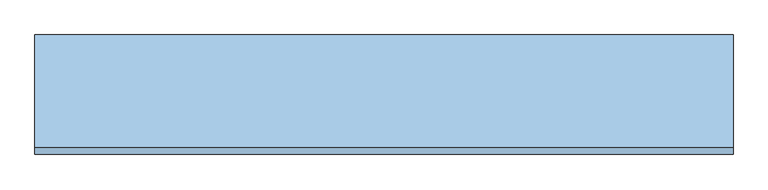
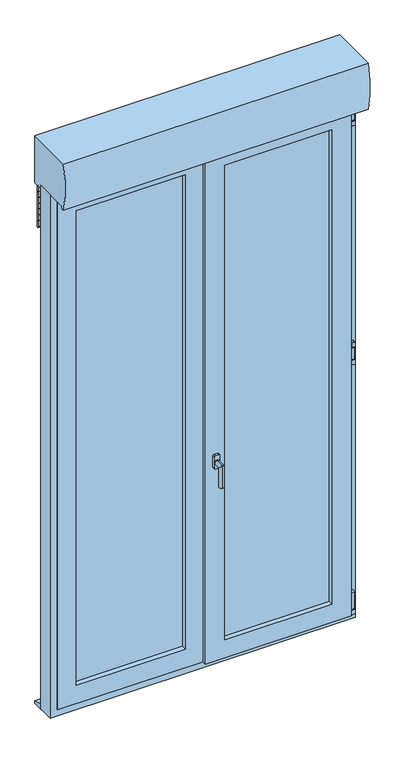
"""IFC4 building model written with IfcOpenShell, lengths in millimetres: window geometry, 23. PF1 + Fixe à G ENR PVC-ALU : PF3 260X236 (LXH) cm + PB."""

from ifc_helpers import new_model, si_unit, point, frame, frame_2d, origin, place, context, project, spatial, polyline, circle_curve, ellipse_curve, trimmed, segment, composite_curve, outline, extrude, faceted_brep, source, transform, mapped, element, save
from ifc_brep_helpers import plane_surface, cylinder_surface, advanced_brep


def window_a6706a3a(model_context):
    return source(origin(), model_context, "Body", "SolidModel", [
        extrude(outline(composite_curve([segment(polyline([(1233.7215382, 626.56), (1233.7215382, 641.56), (1251.7279213, 641.56)]), True, "CONTINUOUS"), segment(trimmed(circle_curve(frame_2d((1251.7279213, 639.5663831)), 1.9936169), [point((1251.7279213, 641.56))], [point((1253.7215382, 639.5663831))], False, "CARTESIAN"), True, "CONTINUOUS"), segment(polyline([(1253.7215382, 639.5663831), (1253.7215382, 628.5276754)]), True, "CONTINUOUS"), segment(trimmed(circle_curve(frame_2d((1251.7538628, 628.5276754)), 1.9676754), [point((1253.7215382, 628.5276754))], [point((1251.7538628, 626.56))], False, "CARTESIAN"), True, "CONTINUOUS"), segment(polyline([(1251.7538628, 626.56), (1233.7215382, 626.56)]), True, "CONTINUOUS")], self_intersect=False)), frame((0.0, -115.0338923, 0.0), z_axis=(0.0, 1.0, 0.0), x_axis=(0.0, 0.0, 1.0)), (0.0, 0.0, 1.0), 15.0),
        extrude(outline(composite_curve([segment(trimmed(circle_curve(frame_2d((634.2805562, -107.5434807)), 5.0), [point((629.2805562, -107.5434807))], [point((639.2805562, -107.5434807))], False, "CARTESIAN"), True, "CONTINUOUS"), segment(trimmed(circle_curve(frame_2d((634.2805562, -107.5434807)), 5.0), [point((639.2805562, -107.5434807))], [point((629.2805562, -107.5434807))], False, "CARTESIAN"), True, "CONTINUOUS")], self_intersect=False)), frame((0.0, 0.0, 1173.7215382), z_axis=(0.0, 0.0, 1.0), x_axis=(1.0, 0.0, 0.0)), (0.0, 0.0, 1.0), 60.0),
        extrude(outline(composite_curve([segment(polyline([(621.56, -100.0434807), (639.6018237, -100.0434807)]), True, "CONTINUOUS"), segment(trimmed(circle_curve(frame_2d((639.6018237, -102.001657)), 1.9581763), [point((639.6018237, -100.0434807))], [point((641.56, -102.001657))], False, "CARTESIAN"), True, "CONTINUOUS"), segment(polyline([(641.56, -102.001657), (641.56, -113.0253033)]), True, "CONTINUOUS"), segment(trimmed(circle_curve(frame_2d((639.5418225, -113.0253033)), 2.0181775), [point((641.56, -113.0253033))], [point((639.5418225, -115.0434807))], False, "CARTESIAN"), True, "CONTINUOUS"), segment(polyline([(639.5418225, -115.0434807), (621.56, -115.0434807), (621.56, -100.0434807)]), True, "CONTINUOUS")], self_intersect=False)), frame((0.0, 0.0, 1179.448), z_axis=(0.0, 0.0, 1.0), x_axis=(1.0, 0.0, 0.0)), (0.0, 0.0, 1.0), 50.0),
        extrude(outline(composite_curve([segment(polyline([(1174.448, 641.7805562), (1174.448, 626.7805562), (1156.4572498, 626.7805562)]), True, "CONTINUOUS"), segment(trimmed(circle_curve(frame_2d((1156.4572498, 628.7898059)), 2.0092498), [point((1156.4572498, 626.7805562))], [point((1154.448, 628.7898059))], False, "CARTESIAN"), True, "CONTINUOUS"), segment(polyline([(1154.448, 628.7898059), (1154.448, 640.1303507)]), True, "CONTINUOUS"), segment(trimmed(circle_curve(frame_2d((1156.4216694, 639.8068867)), 2.0), [point((1154.448, 640.1303507))], [point((1156.0982054, 641.7805562))], False, "CARTESIAN"), True, "CONTINUOUS"), segment(polyline([(1156.0982054, 641.7805562), (1174.448, 641.7805562)]), True, "CONTINUOUS")], self_intersect=False)), frame((0.0, -115.0338923, 0.0), z_axis=(0.0, 1.0, 0.0), x_axis=(0.0, 0.0, 1.0)), (0.0, 0.0, 1.0), 15.0),
        extrude(outline(composite_curve([segment(polyline([(2310.8255382, 626.56), (2310.8255382, 641.56), (2328.8319213, 641.56)]), True, "CONTINUOUS"), segment(trimmed(circle_curve(frame_2d((2328.8319213, 639.5663831)), 1.9936169), [point((2328.8319213, 641.56))], [point((2330.8255382, 639.5663831))], False, "CARTESIAN"), True, "CONTINUOUS"), segment(polyline([(2330.8255382, 639.5663831), (2330.8255382, 628.5276754)]), True, "CONTINUOUS"), segment(trimmed(circle_curve(frame_2d((2328.8578628, 628.5276754)), 1.9676754), [point((2330.8255382, 628.5276754))], [point((2328.8578628, 626.56))], False, "CARTESIAN"), True, "CONTINUOUS"), segment(polyline([(2328.8578628, 626.56), (2310.8255382, 626.56)]), True, "CONTINUOUS")], self_intersect=False)), frame((0.0, -115.0338923, 0.0), z_axis=(0.0, 1.0, 0.0), x_axis=(0.0, 0.0, 1.0)), (0.0, 0.0, 1.0), 15.0),
        extrude(outline(composite_curve([segment(trimmed(circle_curve(frame_2d((634.2805562, -107.5434807)), 5.0), [point((629.2805562, -107.5434807))], [point((639.2805562, -107.5434807))], False, "CARTESIAN"), True, "CONTINUOUS"), segment(trimmed(circle_curve(frame_2d((634.2805562, -107.5434807)), 5.0), [point((639.2805562, -107.5434807))], [point((629.2805562, -107.5434807))], False, "CARTESIAN"), True, "CONTINUOUS")], self_intersect=False)), frame((0.0, 0.0, 2250.8255382), z_axis=(0.0, 0.0, 1.0), x_axis=(1.0, 0.0, 0.0)), (0.0, 0.0, 1.0), 60.0),
        extrude(outline(composite_curve([segment(polyline([(621.56, -100.0434807), (639.6018237, -100.0434807)]), True, "CONTINUOUS"), segment(trimmed(circle_curve(frame_2d((639.6018237, -102.001657)), 1.9581763), [point((639.6018237, -100.0434807))], [point((641.56, -102.001657))], False, "CARTESIAN"), True, "CONTINUOUS"), segment(polyline([(641.56, -102.001657), (641.56, -113.0253033)]), True, "CONTINUOUS"), segment(trimmed(circle_curve(frame_2d((639.5418225, -113.0253033)), 2.0181775), [point((641.56, -113.0253033))], [point((639.5418225, -115.0434807))], False, "CARTESIAN"), True, "CONTINUOUS"), segment(polyline([(639.5418225, -115.0434807), (621.56, -115.0434807), (621.56, -100.0434807)]), True, "CONTINUOUS")], self_intersect=False)), frame((0.0, 0.0, 2256.552), z_axis=(0.0, 0.0, 1.0), x_axis=(1.0, 0.0, 0.0)), (0.0, 0.0, 1.0), 50.0),
        extrude(outline(composite_curve([segment(polyline([(2251.552, 641.7805562), (2251.552, 626.7805562), (2233.5612498, 626.7805562)]), True, "CONTINUOUS"), segment(trimmed(circle_curve(frame_2d((2233.5612498, 628.7898059)), 2.0092498), [point((2233.5612498, 626.7805562))], [point((2231.552, 628.7898059))], False, "CARTESIAN"), True, "CONTINUOUS"), segment(polyline([(2231.552, 628.7898059), (2231.552, 640.1303507)]), True, "CONTINUOUS"), segment(trimmed(circle_curve(frame_2d((2233.5256694, 639.8068867)), 2.0), [point((2231.552, 640.1303507))], [point((2233.2022054, 641.7805562))], False, "CARTESIAN"), True, "CONTINUOUS"), segment(polyline([(2233.2022054, 641.7805562), (2251.552, 641.7805562)]), True, "CONTINUOUS")], self_intersect=False)), frame((0.0, -115.0338923, 0.0), z_axis=(0.0, 1.0, 0.0), x_axis=(0.0, 0.0, 1.0)), (0.0, 0.0, 1.0), 15.0),
        extrude(outline(composite_curve([segment(trimmed(circle_curve(frame_2d((634.2805562, -107.5434807)), 5.0), [point((629.2805562, -107.5434807))], [point((639.2805562, -107.5434807))], False, "CARTESIAN"), True, "CONTINUOUS"), segment(trimmed(circle_curve(frame_2d((634.2805562, -107.5434807)), 5.0), [point((639.2805562, -107.5434807))], [point((629.2805562, -107.5434807))], False, "CARTESIAN"), True, "CONTINUOUS")], self_intersect=False)), frame((0.0, 0.0, 48.448), z_axis=(0.0, 0.0, 1.0), x_axis=(1.0, 0.0, 0.0)), (0.0, 0.0, 1.0), 5.0),
        extrude(outline(composite_curve([segment(polyline([(48.448, 641.7805562), (48.448, 626.7805562), (30.4572498, 626.7805562)]), True, "CONTINUOUS"), segment(trimmed(circle_curve(frame_2d((30.4572498, 628.7898059)), 2.0092498), [point((30.4572498, 626.7805562))], [point((28.448, 628.7898059))], False, "CARTESIAN"), True, "CONTINUOUS"), segment(polyline([(28.448, 628.7898059), (28.448, 640.1303507)]), True, "CONTINUOUS"), segment(trimmed(circle_curve(frame_2d((30.4216694, 639.8068867)), 2.0), [point((28.448, 640.1303507))], [point((30.0982054, 641.7805562))], False, "CARTESIAN"), True, "CONTINUOUS"), segment(polyline([(30.0982054, 641.7805562), (48.448, 641.7805562)]), True, "CONTINUOUS")], self_intersect=False)), frame((0.0, -115.0338923, 0.0), z_axis=(0.0, 1.0, 0.0), x_axis=(0.0, 0.0, 1.0)), (0.0, 0.0, 1.0), 15.0),
        extrude(outline(composite_curve([segment(polyline([(621.56, -100.0434807), (639.6018237, -100.0434807)]), True, "CONTINUOUS"), segment(trimmed(circle_curve(frame_2d((639.6018237, -102.001657)), 1.9581763), [point((639.6018237, -100.0434807))], [point((641.56, -102.001657))], False, "CARTESIAN"), True, "CONTINUOUS"), segment(polyline([(641.56, -102.001657), (641.56, -113.0253033)]), True, "CONTINUOUS"), segment(trimmed(circle_curve(frame_2d((639.5418225, -113.0253033)), 2.0181775), [point((641.56, -113.0253033))], [point((639.5418225, -115.0434807))], False, "CARTESIAN"), True, "CONTINUOUS"), segment(polyline([(639.5418225, -115.0434807), (621.56, -115.0434807), (621.56, -100.0434807)]), True, "CONTINUOUS")], self_intersect=False)), frame((0.0, 0.0, 53.448), z_axis=(0.0, 0.0, 1.0), x_axis=(1.0, 0.0, 0.0)), (0.0, 0.0, 1.0), 75.0),
        advanced_brep(
        [(51.5, -129.3239543, 961.448), (36.5, -129.3239543, 961.448), (31.5, -129.3239543, 956.448), (31.5, -129.3239543, 906.448), (36.5, -129.3239543, 901.448), (51.5, -129.3239543, 901.448), (56.5, -129.3239543, 906.448), (56.5, -129.3239543, 956.448), (44.2771873, -129.3239543, 939.2518349), (44.2771873, -129.3239543, 919.2518349), (51.5, -117.4674689, 961.448), (56.5, -117.4674689, 956.448), (56.5, -117.4674689, 906.448), (51.5, -117.4674689, 901.448), (36.5, -117.4674689, 901.448), (31.5, -117.4674689, 906.448), (31.5, -117.4674689, 956.448), (36.5, -117.4674689, 961.448), (44.2771873, -133.0531938, 919.2518349), (44.2771873, -133.0531938, 939.2518349), (44.2771873, -173.0531938, 939.2518349), (44.2771873, -153.0531938, 919.2518349), (44.2771873, -173.0531938, 839.2518349), (44.2771873, -153.0531938, 839.2518349)],
        [
            (0, 1),
            (1, 2, circle_curve(frame((36.5, -129.3239543, 956.448), z_axis=(0.0, -1.0, 0.0), x_axis=(-1.0, 0.0, 0.0)), 5.0)),
            (2, 3),
            (3, 4, circle_curve(frame((36.5, -129.3239543, 906.448), z_axis=(0.0, -1.0, 0.0), x_axis=(-1.0, 0.0, 0.0)), 5.0)),
            (4, 5),
            (5, 6, circle_curve(frame((51.5, -129.3239543, 906.448), z_axis=(0.0, -1.0, 0.0), x_axis=(-1.0, 0.0, 0.0)), 5.0)),
            (6, 7),
            (7, 0, circle_curve(frame((51.5, -129.3239543, 956.448), z_axis=(0.0, -1.0, 0.0), x_axis=(-1.0, 0.0, 0.0)), 5.0)),
            (8, 9, circle_curve(frame((44.2771873, -129.3239543, 929.2518349), z_axis=(0.0, 1.0, 0.0), x_axis=(0.0, 0.0, -1.0)), 10.0)),
            (9, 8, circle_curve(frame((44.2771873, -129.3239543, 929.2518349), z_axis=(0.0, 1.0, 0.0), x_axis=(0.0, 0.0, -1.0)), 10.0)),
            (10, 11, circle_curve(frame((51.5, -117.4674689, 956.448), z_axis=(0.0, 1.0, 0.0), x_axis=(-1.0, 0.0, 0.0)), 5.0)),
            (11, 12),
            (12, 13, circle_curve(frame((51.5, -117.4674689, 906.448), z_axis=(0.0, 1.0, 0.0), x_axis=(-1.0, 0.0, 0.0)), 5.0)),
            (13, 14),
            (14, 15, circle_curve(frame((36.5, -117.4674689, 906.448), z_axis=(0.0, 1.0, 0.0), x_axis=(-1.0, 0.0, 0.0)), 5.0)),
            (15, 16),
            (16, 17, circle_curve(frame((36.5, -117.4674689, 956.448), z_axis=(0.0, 1.0, 0.0), x_axis=(-1.0, 0.0, 0.0)), 5.0)),
            (17, 10),
            (7, 11),
            (10, 0),
            (6, 12),
            (5, 13),
            (4, 14),
            (3, 15),
            (2, 16),
            (1, 17),
            (18, 19, circle_curve(frame((44.2771873, -133.0531938, 929.2518349), z_axis=(0.0, -1.0, 0.0), x_axis=(0.0, 0.0, -1.0)), 10.0)),
            (19, 20),
            (20, 21, ellipse_curve(frame((44.2771873, -163.0531938, 929.2518349), z_axis=(0.0, 0.7071067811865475, 0.7071067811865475), x_axis=(0.0, 0.7071067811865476, -0.7071067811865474)), 14.1421356, 10.0)),
            (21, 18),
            (19, 18, circle_curve(frame((44.2771873, -133.0531938, 929.2518349), z_axis=(0.0, -1.0, 0.0), x_axis=(0.0, 0.0, -1.0)), 10.0)),
            (21, 20, ellipse_curve(frame((44.2771873, -163.0531938, 929.2518349), z_axis=(0.0, 0.7071067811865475, 0.7071067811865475), x_axis=(0.0, 0.7071067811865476, -0.7071067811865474)), 14.1421356, 10.0)),
            (22, 23, circle_curve(frame((44.2771873, -163.0531938, 839.2518349), z_axis=(0.0, 0.0, -1.0), x_axis=(0.0, 1.0, 0.0)), 10.0)),
            (23, 22, circle_curve(frame((44.2771873, -163.0531938, 839.2518349), z_axis=(0.0, 0.0, -1.0), x_axis=(0.0, 1.0, 0.0)), 10.0)),
            (20, 22),
            (23, 21),
            (18, 9),
            (8, 19),
        ],
        [
            plane_surface(frame((46.5, -129.3239543, 956.448), z_axis=(0.0, -1.0, 0.0), x_axis=(0.0, 0.0, -1.0))),
            plane_surface(frame((46.5, -117.4674689, 956.448), z_axis=(0.0, 1.0, 0.0), x_axis=(0.0, 0.0, 1.0))),
            cylinder_surface(frame((51.5, -129.3239543, 956.448), z_axis=(0.0, 1.0, 0.0), x_axis=(-1.0, 0.0, 0.0)), 5.0),
            plane_surface(frame((56.5, -117.4674689, 956.448), z_axis=(1.0, 0.0, 0.0), x_axis=(0.0, -1.0, 0.0))),
            cylinder_surface(frame((51.5, -129.3239543, 906.448), z_axis=(0.0, 1.0, 0.0), x_axis=(-1.0, 0.0, 0.0)), 5.0),
            plane_surface(frame((51.5, -117.4674689, 901.448), z_axis=(0.0, 0.0, -1.0), x_axis=(0.0, -1.0, 0.0))),
            cylinder_surface(frame((36.5, -129.3239543, 906.448), z_axis=(0.0, 1.0, 0.0), x_axis=(-1.0, 0.0, 0.0)), 5.0),
            plane_surface(frame((31.5, -117.4674689, 906.448), z_axis=(-1.0, 0.0, 0.0), x_axis=(0.0, -1.0, 0.0))),
            cylinder_surface(frame((36.5, -129.3239543, 956.448), z_axis=(0.0, 1.0, 0.0), x_axis=(-1.0, 0.0, 0.0)), 5.0),
            plane_surface(frame((36.5, -117.4674689, 961.448), z_axis=(0.0, 0.0, 1.0), x_axis=(0.0, -1.0, 0.0))),
            cylinder_surface(frame((44.2771873, -133.0531938, 929.2518349), z_axis=(0.0, 1.0, 0.0), x_axis=(0.0, 0.0, -1.0)), 10.0),
            plane_surface(frame((56.5, -163.0531938, 839.2518349), z_axis=(0.0, 0.0, -1.0), x_axis=(1.0, 0.0, 0.0))),
            cylinder_surface(frame((44.2771873, -163.0531938, 929.2518349), z_axis=(0.0, 0.0, 1.0), x_axis=(0.0, 1.0, 0.0)), 10.0),
            cylinder_surface(frame((44.2771873, -129.3239543, 929.2518349), z_axis=(0.0, 1.0, 0.0), x_axis=(0.0, 0.0, -1.0)), 10.0),
        ],
        [
            (0, [[1, 2, 3, 4, 5, 6, 7, 8], [9, 10]]),
            (1, [[11, 12, 13, 14, 15, 16, 17, 18]]),
            (2, [[-8, 19, -11, 20]]),
            (3, [[-7, 21, -12, -19]]),
            (4, [[-6, 22, -13, -21]]),
            (5, [[-5, 23, -14, -22]]),
            (6, [[-4, 24, -15, -23]]),
            (7, [[-3, 25, -16, -24]]),
            (8, [[-2, 26, -17, -25]]),
            (9, [[-1, -20, -18, -26]]),
            (10, [[27, 28, 29, 30]]),
            (10, [[-28, 31, -30, 32]]),
            (11, [[33, 34]]),
            (12, [[-29, 35, -34, 36]]),
            (12, [[-32, -36, -33, -35]]),
            (13, [[-27, 37, -9, 38]]),
            (13, [[-31, -38, -10, -37]]),
        ],
    ),
        faceted_brep([(-650.0, -100.02, 2360.0), (-650.0, -28.9, 2360.0), (-650.0, -28.9, 0.0), (-650.0, -100.02, 0.0), (650.0, -28.9, 2360.0), (650.0, -28.9, 0.0), (-592.0983858, -28.9, 57.9016142), (592.0983858, -28.9, 57.9016142), (592.0983858, -28.9, 2302.0983858), (-592.0983858, -28.9, 2302.0983858), (650.0, -100.02, 0.0), (650.0, -100.02, 2360.0), (-613.424, -100.02, 2323.424), (613.424, -100.02, 2323.424), (613.424, -100.02, 36.576), (-613.424, -100.02, 36.576), (-613.424, -44.648, 2323.424), (-613.424, -44.648, 36.576), (613.424, -44.648, 36.576), (613.424, -44.648, 2323.424), (-592.0983858, -44.648, 2302.0983858), (592.0983858, -44.648, 2302.0983858), (592.0983858, -44.648, 57.9016142), (-592.0983858, -44.648, 57.9016142)], [[[0, 1, 2, 3]], [[1, 4, 5, 2], [6, 7, 8, 9]], [[3, 2, 5, 10]], [[3, 10, 11, 0], [12, 13, 14, 15]], [[16, 12, 15, 17]], [[17, 15, 14, 18]], [[17, 18, 19, 16], [20, 21, 22, 23]], [[9, 20, 23, 6]], [[6, 23, 22, 7]], [[10, 5, 4, 11]], [[18, 14, 13, 19]], [[7, 22, 21, 8]], [[11, 4, 1, 0]], [[19, 13, 12, 16]], [[8, 21, 20, 9]]]),
        extrude(outline(polyline([(35.0045299, -28.9), (35.0045299, -44.648), (20.324, -44.648), (20.324, -100.0), (8.132, -100.0), (8.132, -44.648), (-21.3216142, -44.648), (-21.3216142, -28.9), (35.0045299, -28.9)])), frame((0.0, 0.0, 57.9016142), z_axis=(0.0, 0.0, 1.0), x_axis=(1.0, 0.0, 0.0)), (0.0, 0.0, 1.0), 2244.1),
        faceted_brep([(-21.2576142, -28.9, 2302.0983858), (-21.2576142, -44.648, 2302.0983858), (-21.2576142, -44.648, 57.9016142), (-21.2576142, -28.9, 57.9016142), (8.196, -44.648, 28.448), (-621.56, -44.648, 28.448), (-621.56, -44.648, 2331.552), (8.196, -44.648, 2331.552), (-592.1063858, -44.648, 2302.0983858), (-592.1063858, -44.648, 57.9016142), (-592.1063858, -28.9, 57.9016142), (-592.1063858, -28.9, 2302.0983858), (-73.8319508, -28.9, 2249.5240492), (-539.5320492, -28.9, 2249.5240492), (-539.5320492, -28.9, 110.4759508), (-73.8319508, -28.9, 110.4759508), (-539.5320492, -50.2048765, 110.4759508), (-539.5320492, -50.2048765, 2249.5240492), (-73.8319508, -50.2048765, 110.4759508), (-73.8319508, -50.2048765, 2249.5240492), (8.196, -100.963906, 28.448), (-621.56, -100.963906, 28.448), (-621.56, -100.963906, 2331.552), (8.196, -100.963906, 2331.552), (-73.8319508, -100.963906, 110.4759508), (-539.5320492, -100.963906, 110.4759508), (-539.5320492, -100.963906, 2249.5240492), (-73.8319508, -100.963906, 2249.5240492), (-73.8319508, -78.213906, 110.4759508), (-539.5320492, -78.213906, 110.4759508), (-539.5320492, -78.213906, 2249.5240492), (-73.8319508, -78.213906, 2249.5240492), (-59.9384883, -50.2048765, 2263.4175117), (-553.4255117, -50.2048765, 2263.4175117), (-553.4255117, -50.2048765, 96.5824883), (-59.9384883, -50.2048765, 96.5824883), (-59.9384883, -54.213906, 2263.4175117), (-59.9384883, -54.213906, 96.5824883), (-553.4255117, -54.213906, 96.5824883), (-553.4255117, -54.213906, 2263.4175117), (-73.8319508, -54.213906, 2249.5240492), (-539.5320492, -54.213906, 2249.5240492), (-539.5320492, -54.213906, 110.4759508), (-73.8319508, -54.213906, 110.4759508), (-59.9384883, -78.213906, 2263.4175117), (-59.9384883, -74.213906, 2263.4175117), (-59.9384883, -74.213906, 96.5824883), (-59.9384883, -78.213906, 96.5824883), (-553.4255117, -74.213906, 2263.4175117), (-553.4255117, -74.213906, 96.5824883), (-73.8319508, -74.213906, 110.4759508), (-539.5320492, -74.213906, 110.4759508), (-539.5320492, -74.213906, 2249.5240492), (-73.8319508, -74.213906, 2249.5240492), (-553.4255117, -78.213906, 96.5824883), (-553.4255117, -78.213906, 2263.4175117)], [[[0, 1, 2, 3]], [[4, 5, 6, 7], [1, 8, 9, 2]], [[3, 2, 9, 10]], [[3, 10, 11, 0], [12, 13, 14, 15]], [[10, 9, 8, 11]], [[16, 14, 13, 17]], [[18, 15, 14, 16]], [[19, 12, 15, 18]], [[4, 20, 21, 5]], [[5, 21, 22, 6]], [[23, 20, 4, 7]], [[23, 22, 21, 20], [24, 25, 26, 27]], [[24, 28, 29, 25]], [[25, 29, 30, 26]], [[27, 31, 28, 24]], [[32, 33, 34, 35], [18, 16, 17, 19]], [[36, 32, 35, 37]], [[37, 35, 34, 38]], [[37, 38, 39, 36], [40, 41, 42, 43]], [[44, 45, 46, 47]], [[45, 48, 49, 46], [50, 51, 52, 53]], [[47, 46, 49, 54]], [[47, 54, 55, 44], [31, 30, 29, 28]], [[38, 34, 33, 39]], [[54, 49, 48, 55]], [[51, 42, 41, 52]], [[50, 43, 42, 51]], [[53, 40, 43, 50]], [[11, 8, 1, 0]], [[6, 22, 23, 7]], [[17, 13, 12, 19]], [[39, 33, 32, 36]], [[55, 48, 45, 44]], [[52, 41, 40, 53]], [[26, 30, 31, 27]]]),
        faceted_brep([(0.004, -119.3239543, 28.448), (0.004, -100.0434807, 28.448), (621.56, -100.0434807, 28.448), (621.56, -119.3239543, 28.448), (621.56, -100.0434807, 2331.552), (621.56, -119.3239543, 2331.552), (0.004, -100.0434807, 2331.552), (601.24, -100.0434807, 2311.232), (20.324, -100.0434807, 2311.232), (20.324, -100.0434807, 48.768), (601.24, -100.0434807, 48.768), (0.004, -119.3239543, 2331.552), (539.3585043, -119.3239543, 110.6494957), (82.2054957, -119.3239543, 110.6494957), (82.2054957, -119.3239543, 2249.3505043), (539.3585043, -119.3239543, 2249.3505043), (82.2054957, -100.019954, 110.6494957), (539.3585043, -100.019954, 110.6494957), (539.3585043, -100.019954, 2249.3505043), (561.6166701, -100.019954, 88.3913299), (59.9473299, -100.019954, 88.3913299), (59.9473299, -100.019954, 2271.6086701), (561.6166701, -100.019954, 2271.6086701), (82.2054957, -100.019954, 2249.3505043), (59.9473299, -48.2039543, 88.3913299), (561.6166701, -48.2039543, 88.3913299), (561.6166701, -48.2039543, 2271.6086701), (592.1063858, -48.2039543, 57.9016142), (29.4576142, -48.2039543, 57.9016142), (29.4576142, -48.2039543, 2302.0983858), (592.1063858, -48.2039543, 2302.0983858), (59.9473299, -48.2039543, 2271.6086701), (29.4576142, -44.648, 57.9016142), (592.1063858, -44.648, 57.9016142), (592.1063858, -44.648, 2302.0983858), (601.24, -44.648, 48.768), (20.324, -44.648, 48.768), (20.324, -44.648, 2311.232), (601.24, -44.648, 2311.232), (29.4576142, -44.648, 2302.0983858)], [[[0, 1, 2, 3]], [[3, 2, 4, 5]], [[2, 1, 6, 4], [7, 8, 9, 10]], [[5, 11, 0, 3], [12, 13, 14, 15]], [[16, 13, 12, 17]], [[17, 12, 15, 18]], [[19, 20, 21, 22], [18, 23, 16, 17]], [[24, 20, 19, 25]], [[25, 19, 22, 26]], [[27, 28, 29, 30], [26, 31, 24, 25]], [[32, 28, 27, 33]], [[33, 27, 30, 34]], [[35, 36, 37, 38], [34, 39, 32, 33]], [[9, 36, 35, 10]], [[10, 35, 38, 7]], [[11, 6, 1, 0]], [[23, 14, 13, 16]], [[31, 21, 20, 24]], [[39, 29, 28, 32]], [[8, 37, 36, 9]], [[5, 4, 6, 11]], [[34, 30, 29, 39]], [[7, 38, 37, 8]], [[18, 15, 14, 23]], [[26, 22, 21, 31]]]),
        extrude(outline(polyline([(-553.4, -54.213906), (-553.4, -50.2048765), (-59.9, -50.2048765), (-59.9, -54.213906), (-553.4, -54.213906)])), frame((0.0, 0.0, 96.5824883), z_axis=(0.0, 0.0, 1.0), x_axis=(1.0, 0.0, 0.0)), (0.0, 0.0, 1.0), 2166.8350233),
        extrude(outline(polyline([(-553.4, -78.2229356), (-553.4, -74.213906), (-59.9, -74.213906), (-59.9, -78.2229356), (-553.4, -78.2229356)])), frame((0.0, 0.0, 96.5824883), z_axis=(0.0, 0.0, 1.0), x_axis=(1.0, 0.0, 0.0)), (0.0, 0.0, 1.0), 2166.8350233),
        extrude(outline(polyline([(553.4, -42.025765), (553.4, -45.9821328), (68.1, -45.9821328), (68.1, -42.025765), (553.4, -42.025765)])), frame((0.0, 0.0, 96.5824883), z_axis=(0.0, 0.0, 1.0), x_axis=(1.0, 0.0, 0.0)), (0.0, 0.0, 1.0), 2166.8350233),
        extrude(outline(polyline([(553.4, -96.019954), (553.4, -100.019954), (68.1, -100.019954), (68.1, -96.019954), (553.4, -96.019954)])), frame((0.0, 0.0, 96.5824883), z_axis=(0.0, 0.0, 1.0), x_axis=(1.0, 0.0, 0.0)), (0.0, 0.0, 1.0), 2166.8350233),
        extrude(outline(polyline([(553.4, -68.9786213), (553.4, -72.9786213), (68.1, -72.9786213), (68.1, -68.9786213), (553.4, -68.9786213)])), frame((0.0, 0.0, 96.5824883), z_axis=(0.0, 0.0, 1.0), x_axis=(1.0, 0.0, 0.0)), (0.0, 0.0, 1.0), 2166.8350233),
        faceted_brep([(561.6166701, -48.2039543, 2271.6086701), (561.6166701, -100.019954, 2271.6086701), (561.6166701, -100.019954, 88.3913299), (561.6166701, -48.2039543, 88.3913299), (59.9473299, -100.019954, 2271.6086701), (59.9473299, -100.019954, 88.3913299), (553.4255117, -100.019954, 2263.4175117), (553.4255117, -100.019954, 96.5824883), (68.1384883, -100.019954, 96.5824883), (68.1384883, -100.019954, 2263.4175117), (59.9473299, -48.2039543, 88.3913299), (35.0045299, -48.2039543, 2296.5514701), (35.0045299, -48.2039543, 63.4485299), (586.5594701, -48.2039543, 63.4485299), (586.5594701, -48.2039543, 2296.5514701), (59.9473299, -48.2039543, 2271.6086701), (586.5594701, -28.7475756, 2296.5514701), (586.5594701, -28.7475756, 63.4485299), (35.0045299, -28.7475756, 63.4485299), (35.0045299, -28.7475756, 2296.5514701), (86.2166614, -28.7475756, 2245.3393386), (86.2166614, -28.7475756, 114.6606614), (535.3473386, -28.7475756, 114.6606614), (535.3473386, -28.7475756, 2245.3393386), (535.3473386, -41.5821328, 2245.3393386), (535.3473386, -41.5821328, 114.6606614), (86.2166614, -41.5821328, 114.6606614), (68.1384883, -41.5821328, 2263.4175117), (68.1384883, -41.5821328, 96.5824883), (553.4255117, -41.5821328, 96.5824883), (553.4255117, -41.5821328, 2263.4175117), (86.2166614, -41.5821328, 2245.3393386), (536.2054041, -68.9786213, 2246.1974041), (536.2054041, -47.5821328, 2246.1974041), (536.2054041, -47.5821328, 113.8025959), (536.2054041, -68.9786213, 113.8025959), (553.4255117, -47.5821328, 2263.4175117), (553.4255117, -47.5821328, 96.5824883), (68.1384883, -47.5821328, 96.5824883), (68.1384883, -47.5821328, 2263.4175117), (85.3585959, -47.5821328, 2246.1974041), (85.3585959, -47.5821328, 113.8025959), (85.3585959, -68.9786213, 113.8025959), (68.1384883, -68.9786213, 2263.4175117), (68.1384883, -68.9786213, 96.5824883), (553.4255117, -68.9786213, 96.5824883), (553.4255117, -68.9786213, 2263.4175117), (85.3585959, -68.9786213, 2246.1974041), (539.5320492, -96.019954, 2249.5240492), (539.5320492, -72.9786213, 2249.5240492), (539.5320492, -72.9786213, 110.4759508), (539.5320492, -96.019954, 110.4759508), (553.4255117, -72.9786213, 2263.4175117), (553.4255117, -72.9786213, 96.5824883), (68.1384883, -72.9786213, 96.5824883), (68.1384883, -72.9786213, 2263.4175117), (82.0319508, -72.9786213, 2249.5240492), (82.0319508, -72.9786213, 110.4759508), (82.0319508, -96.019954, 110.4759508), (68.1384883, -96.019954, 2263.4175117), (68.1384883, -96.019954, 96.5824883), (553.4255117, -96.019954, 96.5824883), (553.4255117, -96.019954, 2263.4175117), (82.0319508, -96.019954, 2249.5240492)], [[[0, 1, 2, 3]], [[4, 5, 2, 1], [6, 7, 8, 9]], [[3, 2, 5, 10]], [[11, 12, 13, 14], [0, 3, 10, 15]], [[16, 14, 13, 17]], [[17, 13, 12, 18]], [[16, 17, 18, 19], [20, 21, 22, 23]], [[24, 23, 22, 25]], [[25, 22, 21, 26]], [[27, 28, 29, 30], [24, 25, 26, 31]], [[32, 33, 34, 35]], [[36, 37, 38, 39], [40, 41, 34, 33]], [[35, 34, 41, 42]], [[43, 44, 45, 46], [32, 35, 42, 47]], [[48, 49, 50, 51]], [[52, 53, 54, 55], [56, 57, 50, 49]], [[51, 50, 57, 58]], [[59, 60, 61, 62], [48, 51, 58, 63]], [[6, 62, 61, 7]], [[7, 61, 60, 8]], [[36, 30, 29, 37]], [[37, 29, 28, 38]], [[52, 46, 45, 53]], [[53, 45, 44, 54]], [[58, 57, 56, 63]], [[8, 60, 59, 9]], [[10, 5, 4, 15]], [[18, 12, 11, 19]], [[26, 21, 20, 31]], [[38, 28, 27, 39]], [[42, 41, 40, 47]], [[54, 44, 43, 55]], [[15, 4, 1, 0]], [[19, 11, 14, 16]], [[31, 20, 23, 24]], [[47, 40, 33, 32]], [[63, 56, 49, 48]], [[9, 59, 62, 6]], [[39, 27, 30, 36]], [[55, 43, 46, 52]]]),
        extrude(outline(composite_curve([segment(polyline([(-186.3991192, 2350.3409737), (-197.3316724, 2350.3409737)]), True, "CONTINUOUS"), segment(trimmed(circle_curve(frame_2d((189.1050523, 2453.6204869)), 400.0), [point((-197.3316724, 2350.3409737))], [point((-197.3316724, 2556.9))], False, "CARTESIAN"), True, "CONTINUOUS"), segment(polyline([(-197.3316724, 2556.9), (13.0999994, 2556.9), (13.0999994, 2346.0216226), (-4.9499979, 2346.0216226), (-4.9499979, 2344.2216225), (-2.7215215, 2344.2216225), (-2.7215215, 2319.9791617), (-4.9499979, 2319.9791617), (-4.9499979, 2318.1791616), (-2.7215215, 2318.1791616), (-2.7215215, 2293.9367008), (-4.9499979, 2293.9367008), (-4.9499979, 2292.1367006), (-2.7215215, 2292.1367006), (-2.7215215, 2267.8942398), (-4.9499979, 2267.8942398), (-4.9499979, 2266.0942397), (-2.7215215, 2266.0942397), (-2.7215215, 2241.8517789), (-4.9499979, 2241.8517789), (-4.9499979, 2240.0517788), (-2.7215215, 2240.0517788), (-2.7215215, 2215.809318), (-4.9499979, 2215.809318), (-4.9499979, 2214.0093179), (-2.7215215, 2214.0093179), (-2.7215215, 2189.7668571), (-4.9499979, 2189.7668571), (-4.9499979, 2187.966857), (-2.7215215, 2187.966857), (-2.7215215, 2163.7243961), (-4.9499979, 2163.7243961), (-4.9499979, 2161.9243963), (-3.044091, 2161.9243963), (-3.044091, 2158.977424), (-6.4, 2155.6232688), (-9.8999992, 2158.9774251), (-9.8999992, 2161.9243963), (-7.7499979, 2161.9243963), (-7.7499979, 2163.7243961), (-9.9999979, 2163.7243961), (-9.9999979, 2187.9668572), (-7.7499979, 2187.9668572), (-7.7499979, 2189.7668571), (-9.9999979, 2189.7668571), (-9.9999979, 2214.0093181), (-7.7499979, 2214.0093181), (-7.7499979, 2215.809318), (-9.9999979, 2215.809318), (-9.9999979, 2240.051779), (-7.7499979, 2240.051779), (-7.7499979, 2241.8517789), (-9.9999979, 2241.8517789), (-9.9999979, 2266.09424), (-7.7499979, 2266.09424), (-7.7499979, 2267.8942398), (-9.9999979, 2267.8942398), (-9.9999979, 2292.1367009), (-7.7499979, 2292.1367009), (-7.7499979, 2293.9367008), (-9.9999979, 2293.9367008), (-9.9999979, 2318.1791618), (-7.7499979, 2318.1791618), (-7.7499979, 2319.9791617), (-9.9999979, 2319.9791617), (-9.9999979, 2344.2216227), (-7.7499979, 2344.2216227), (-7.7499979, 2346.0216226), (-28.9, 2346.0216226), (-28.9, 2360.0), (-186.3991192, 2360.0), (-186.3991192, 2350.3409737)]), True, "CONTINUOUS")], self_intersect=False)), frame((-650.0, 0.0, 0.0), z_axis=(1.0, 0.0, 0.0), x_axis=(0.0, 1.0, 0.0)), (0.0, 0.0, 1.0), 1300.0),
        extrude(outline(polyline([(13.1, 0.0), (-100.02, 0.0), (-100.02, 30.0), (-28.9, 30.0), (-28.9, 20.0), (13.1, 10.0), (13.1, 0.0)])), frame((-650.0, 0.0, 0.0), z_axis=(1.0, 0.0, 0.0), x_axis=(0.0, 1.0, 0.0)), (0.0, 0.0, 1.0), 1300.0),
        extrude(outline(polyline([(649.0, 13.1), (650.0, 13.1), (650.0, -28.9), (649.0, -28.9), (649.0, -14.9), (629.0, -14.9), (629.0, -11.9), (649.0, -11.9), (649.0, -0.9), (629.0, -0.9), (629.0, 2.1), (649.0, 2.1), (649.0, 13.1)])), frame((0.0, 0.0, 20.0), z_axis=(0.0, 0.0, 1.0), x_axis=(1.0, 0.0, 0.0)), (0.0, 0.0, 1.0), 2326.0216226),
    ])


if __name__ == "__main__":
    model = new_model("IFC4")
    model_context = context("Model", 3, world=origin())
    ifc_project = project(units=[si_unit("LENGTHUNIT", "METRE", prefix="MILLI")], contexts=[model_context])
    site = spatial("IfcSite", under=ifc_project)
    building = spatial("IfcBuilding", under=site)
    placement = place(None, origin())
    window_shape = window_a6706a3a(model_context)
    element("IfcWindow", 1, ObjectType="23. PF1 + Fixe à G ENR PVC-ALU : PF3 260X236 (LXH) cm + PB", at=placement, inside=building, context=model_context, shape_type="MappedRepresentation", body=[
        mapped(window_shape, transform((0.0, 0.0, 0.0), x_axis=(1.0, 0.0, 0.0), y_axis=(0.0, 1.0, 0.0), z_axis=(0.0, 0.0, 1.0))),
    ])
    save(model, "model.ifc")
